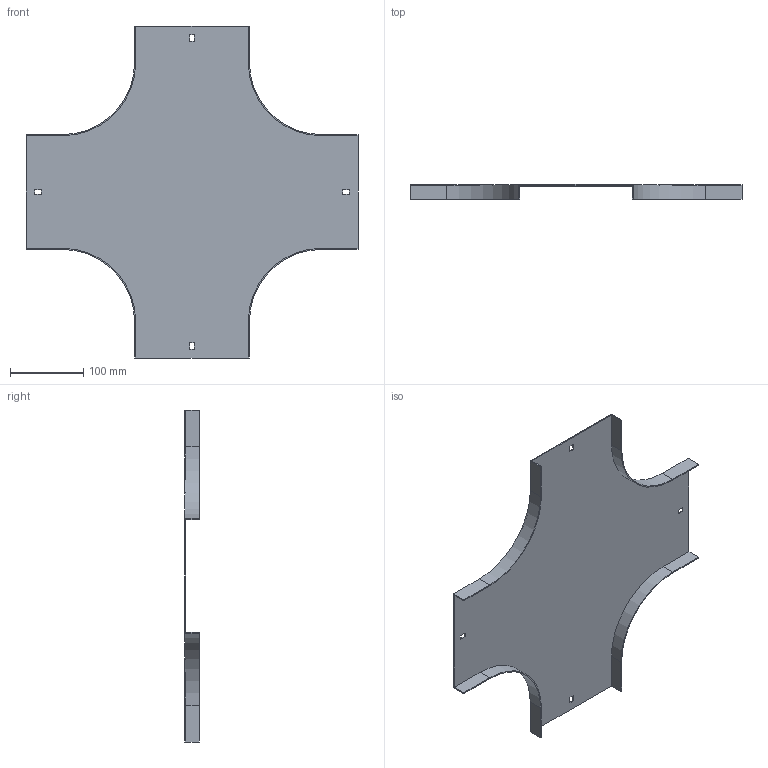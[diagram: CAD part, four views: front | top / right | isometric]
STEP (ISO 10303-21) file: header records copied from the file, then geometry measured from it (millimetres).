
FILE_DESCRIPTION (( 'STEP AP214' ), '1' );
FILE_NAME ('17N1R150.step', '2025-02-21T09:52:45', ( '' ), ( '' ), 'SwSTEP 2.0', 'SolidWorks 2023', '' );
FILE_SCHEMA (( 'AUTOMOTIVE_DESIGN' ));
Length unit declared in the file: millimetre
Products named in the file (1): 17N1R150
Bounding box: 454 x 20 x 454 mm (x, y, z)
Volume: 217407.3 mm3; surface area: 292754.7 mm2
Topology: 1 solids, 1 shells, 50 faces, 144 edges, 96 vertices
Faces by surface type: plane 42, cylinder 8
Entity records: 1663 total; most frequent: CARTESIAN_POINT 291, ORIENTED_EDGE 288, DIRECTION 262, EDGE_CURVE 144, VECTOR 128, LINE 128, VERTEX_POINT 96, AXIS2_PLACEMENT_3D 67
